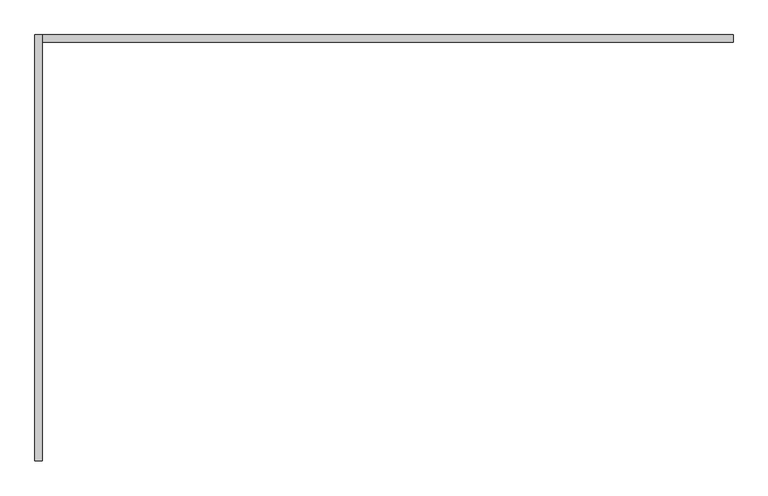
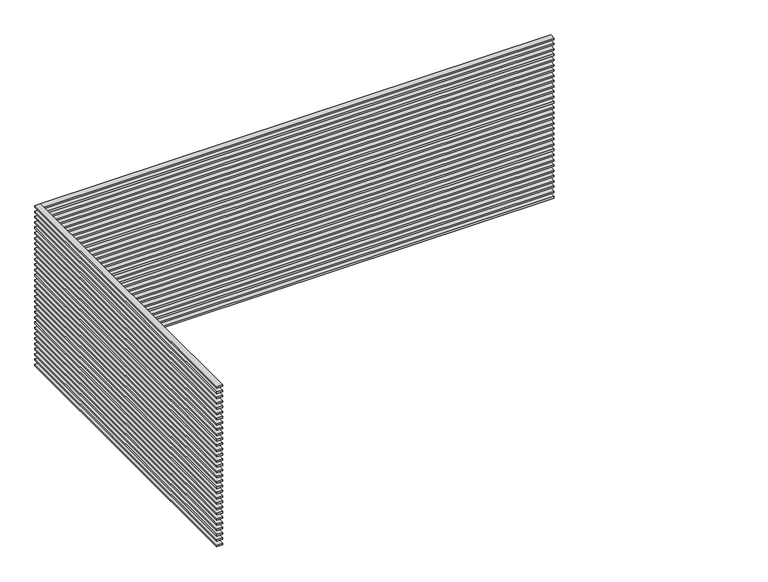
"""IFC4 building model written with IfcOpenShell, lengths in millimetres: proxy geometry, 水平ルーバー（Ｌ型） : h30d100@100."""

from ifc_helpers import new_model, si_unit, frame, origin, place, context, project, spatial, polyline, outline, extrude, source, transform, mapped, element, save


def generic_models_b61f9f31(model_context):
    return source(origin(), model_context, "Body", "SweptSolid", [
        extrude(outline(polyline([(-200.0, -5650.0), (-300.0, -5650.0), (-300.0, 0.0), (-200.0, 0.0), (-200.0, -5650.0)])), frame((0.0, 0.0, 2985.0), z_axis=(0.0, 0.0, 1.0), x_axis=(1.0, 0.0, 0.0)), (0.0, 0.0, 1.0), 30.0),
        extrude(outline(polyline([(-200.0, -5650.0), (-300.0, -5650.0), (-300.0, 0.0), (-200.0, 0.0), (-200.0, -5650.0)])), frame((0.0, 0.0, 2885.0), z_axis=(0.0, 0.0, 1.0), x_axis=(1.0, 0.0, 0.0)), (0.0, 0.0, 1.0), 30.0),
        extrude(outline(polyline([(-200.0, -5650.0), (-300.0, -5650.0), (-300.0, 0.0), (-200.0, 0.0), (-200.0, -5650.0)])), frame((0.0, 0.0, 2785.0), z_axis=(0.0, 0.0, 1.0), x_axis=(1.0, 0.0, 0.0)), (0.0, 0.0, 1.0), 30.0),
        extrude(outline(polyline([(-200.0, -5650.0), (-300.0, -5650.0), (-300.0, 0.0), (-200.0, 0.0), (-200.0, -5650.0)])), frame((0.0, 0.0, 2685.0), z_axis=(0.0, 0.0, 1.0), x_axis=(1.0, 0.0, 0.0)), (0.0, 0.0, 1.0), 30.0),
        extrude(outline(polyline([(-200.0, -5650.0), (-300.0, -5650.0), (-300.0, 0.0), (-200.0, 0.0), (-200.0, -5650.0)])), frame((0.0, 0.0, 2585.0), z_axis=(0.0, 0.0, 1.0), x_axis=(1.0, 0.0, 0.0)), (0.0, 0.0, 1.0), 30.0),
        extrude(outline(polyline([(-200.0, -5650.0), (-300.0, -5650.0), (-300.0, 0.0), (-200.0, 0.0), (-200.0, -5650.0)])), frame((0.0, 0.0, 2485.0), z_axis=(0.0, 0.0, 1.0), x_axis=(1.0, 0.0, 0.0)), (0.0, 0.0, 1.0), 30.0),
        extrude(outline(polyline([(-200.0, -5650.0), (-300.0, -5650.0), (-300.0, 0.0), (-200.0, 0.0), (-200.0, -5650.0)])), frame((0.0, 0.0, 2385.0), z_axis=(0.0, 0.0, 1.0), x_axis=(1.0, 0.0, 0.0)), (0.0, 0.0, 1.0), 30.0),
        extrude(outline(polyline([(-200.0, -5650.0), (-300.0, -5650.0), (-300.0, 0.0), (-200.0, 0.0), (-200.0, -5650.0)])), frame((0.0, 0.0, 2285.0), z_axis=(0.0, 0.0, 1.0), x_axis=(1.0, 0.0, 0.0)), (0.0, 0.0, 1.0), 30.0),
        extrude(outline(polyline([(-200.0, -5650.0), (-300.0, -5650.0), (-300.0, 0.0), (-200.0, 0.0), (-200.0, -5650.0)])), frame((0.0, 0.0, 2185.0), z_axis=(0.0, 0.0, 1.0), x_axis=(1.0, 0.0, 0.0)), (0.0, 0.0, 1.0), 30.0),
        extrude(outline(polyline([(-200.0, -5650.0), (-300.0, -5650.0), (-300.0, 0.0), (-200.0, 0.0), (-200.0, -5650.0)])), frame((0.0, 0.0, 2085.0), z_axis=(0.0, 0.0, 1.0), x_axis=(1.0, 0.0, 0.0)), (0.0, 0.0, 1.0), 30.0),
        extrude(outline(polyline([(-200.0, -5650.0), (-300.0, -5650.0), (-300.0, 0.0), (-200.0, 0.0), (-200.0, -5650.0)])), frame((0.0, 0.0, 1985.0), z_axis=(0.0, 0.0, 1.0), x_axis=(1.0, 0.0, 0.0)), (0.0, 0.0, 1.0), 30.0),
        extrude(outline(polyline([(-200.0, -5650.0), (-300.0, -5650.0), (-300.0, 0.0), (-200.0, 0.0), (-200.0, -5650.0)])), frame((0.0, 0.0, 1885.0), z_axis=(0.0, 0.0, 1.0), x_axis=(1.0, 0.0, 0.0)), (0.0, 0.0, 1.0), 30.0),
        extrude(outline(polyline([(-200.0, -5650.0), (-300.0, -5650.0), (-300.0, 0.0), (-200.0, 0.0), (-200.0, -5650.0)])), frame((0.0, 0.0, 1785.0), z_axis=(0.0, 0.0, 1.0), x_axis=(1.0, 0.0, 0.0)), (0.0, 0.0, 1.0), 30.0),
        extrude(outline(polyline([(-200.0, -5650.0), (-300.0, -5650.0), (-300.0, 0.0), (-200.0, 0.0), (-200.0, -5650.0)])), frame((0.0, 0.0, 1685.0), z_axis=(0.0, 0.0, 1.0), x_axis=(1.0, 0.0, 0.0)), (0.0, 0.0, 1.0), 30.0),
        extrude(outline(polyline([(-200.0, -5650.0), (-300.0, -5650.0), (-300.0, 0.0), (-200.0, 0.0), (-200.0, -5650.0)])), frame((0.0, 0.0, 1585.0), z_axis=(0.0, 0.0, 1.0), x_axis=(1.0, 0.0, 0.0)), (0.0, 0.0, 1.0), 30.0),
        extrude(outline(polyline([(-200.0, -5650.0), (-300.0, -5650.0), (-300.0, 0.0), (-200.0, 0.0), (-200.0, -5650.0)])), frame((0.0, 0.0, 1485.0), z_axis=(0.0, 0.0, 1.0), x_axis=(1.0, 0.0, 0.0)), (0.0, 0.0, 1.0), 30.0),
        extrude(outline(polyline([(-200.0, -5650.0), (-300.0, -5650.0), (-300.0, 0.0), (-200.0, 0.0), (-200.0, -5650.0)])), frame((0.0, 0.0, 1385.0), z_axis=(0.0, 0.0, 1.0), x_axis=(1.0, 0.0, 0.0)), (0.0, 0.0, 1.0), 30.0),
        extrude(outline(polyline([(-200.0, -5650.0), (-300.0, -5650.0), (-300.0, 0.0), (-200.0, 0.0), (-200.0, -5650.0)])), frame((0.0, 0.0, 1285.0), z_axis=(0.0, 0.0, 1.0), x_axis=(1.0, 0.0, 0.0)), (0.0, 0.0, 1.0), 30.0),
        extrude(outline(polyline([(-200.0, -5650.0), (-300.0, -5650.0), (-300.0, 0.0), (-200.0, 0.0), (-200.0, -5650.0)])), frame((0.0, 0.0, 1185.0), z_axis=(0.0, 0.0, 1.0), x_axis=(1.0, 0.0, 0.0)), (0.0, 0.0, 1.0), 30.0),
        extrude(outline(polyline([(-200.0, -5650.0), (-300.0, -5650.0), (-300.0, 0.0), (-200.0, 0.0), (-200.0, -5650.0)])), frame((0.0, 0.0, 1085.0), z_axis=(0.0, 0.0, 1.0), x_axis=(1.0, 0.0, 0.0)), (0.0, 0.0, 1.0), 30.0),
        extrude(outline(polyline([(-200.0, -5650.0), (-300.0, -5650.0), (-300.0, 0.0), (-200.0, 0.0), (-200.0, -5650.0)])), frame((0.0, 0.0, 985.0), z_axis=(0.0, 0.0, 1.0), x_axis=(1.0, 0.0, 0.0)), (0.0, 0.0, 1.0), 30.0),
        extrude(outline(polyline([(-200.0, -5650.0), (-300.0, -5650.0), (-300.0, 0.0), (-200.0, 0.0), (-200.0, -5650.0)])), frame((0.0, 0.0, 885.0), z_axis=(0.0, 0.0, 1.0), x_axis=(1.0, 0.0, 0.0)), (0.0, 0.0, 1.0), 30.0),
        extrude(outline(polyline([(-200.0, -5650.0), (-300.0, -5650.0), (-300.0, 0.0), (-200.0, 0.0), (-200.0, -5650.0)])), frame((0.0, 0.0, 785.0), z_axis=(0.0, 0.0, 1.0), x_axis=(1.0, 0.0, 0.0)), (0.0, 0.0, 1.0), 30.0),
        extrude(outline(polyline([(-200.0, -5650.0), (-300.0, -5650.0), (-300.0, 0.0), (-200.0, 0.0), (-200.0, -5650.0)])), frame((0.0, 0.0, 685.0), z_axis=(0.0, 0.0, 1.0), x_axis=(1.0, 0.0, 0.0)), (0.0, 0.0, 1.0), 30.0),
        extrude(outline(polyline([(-200.0, -5650.0), (-300.0, -5650.0), (-300.0, 0.0), (-200.0, 0.0), (-200.0, -5650.0)])), frame((0.0, 0.0, 585.0), z_axis=(0.0, 0.0, 1.0), x_axis=(1.0, 0.0, 0.0)), (0.0, 0.0, 1.0), 30.0),
        extrude(outline(polyline([(-200.0, -5650.0), (-300.0, -5650.0), (-300.0, 0.0), (-200.0, 0.0), (-200.0, -5650.0)])), frame((0.0, 0.0, 485.0), z_axis=(0.0, 0.0, 1.0), x_axis=(1.0, 0.0, 0.0)), (0.0, 0.0, 1.0), 30.0),
        extrude(outline(polyline([(-200.0, -5650.0), (-300.0, -5650.0), (-300.0, 0.0), (-200.0, 0.0), (-200.0, -5650.0)])), frame((0.0, 0.0, 385.0), z_axis=(0.0, 0.0, 1.0), x_axis=(1.0, 0.0, 0.0)), (0.0, 0.0, 1.0), 30.0),
        extrude(outline(polyline([(-200.0, -5650.0), (-300.0, -5650.0), (-300.0, 0.0), (-200.0, 0.0), (-200.0, -5650.0)])), frame((0.0, 0.0, 285.0), z_axis=(0.0, 0.0, 1.0), x_axis=(1.0, 0.0, 0.0)), (0.0, 0.0, 1.0), 30.0),
        extrude(outline(polyline([(-200.0, -5650.0), (-300.0, -5650.0), (-300.0, 0.0), (-200.0, 0.0), (-200.0, -5650.0)])), frame((0.0, 0.0, 185.0), z_axis=(0.0, 0.0, 1.0), x_axis=(1.0, 0.0, 0.0)), (0.0, 0.0, 1.0), 30.0),
        extrude(outline(polyline([(-200.0, -5650.0), (-300.0, -5650.0), (-300.0, 0.0), (-200.0, 0.0), (-200.0, -5650.0)])), frame((0.0, 0.0, 85.0), z_axis=(0.0, 0.0, 1.0), x_axis=(1.0, 0.0, 0.0)), (0.0, 0.0, 1.0), 30.0),
        extrude(outline(polyline([(-200.0, -5650.0), (-300.0, -5650.0), (-300.0, 0.0), (-200.0, 0.0), (-200.0, -5650.0)])), frame((0.0, 0.0, -15.0), z_axis=(0.0, 0.0, 1.0), x_axis=(1.0, 0.0, 0.0)), (0.0, 0.0, 1.0), 30.0),
        extrude(outline(polyline([(-200.0, -100.0), (-200.0, 0.0), (8950.0, 0.0), (8950.0, -100.0), (-200.0, -100.0)])), frame((0.0, 0.0, 2985.0), z_axis=(0.0, 0.0, 1.0), x_axis=(1.0, 0.0, 0.0)), (0.0, 0.0, 1.0), 30.0),
        extrude(outline(polyline([(-200.0, -100.0), (-200.0, 0.0), (8950.0, 0.0), (8950.0, -100.0), (-200.0, -100.0)])), frame((0.0, 0.0, 2885.0), z_axis=(0.0, 0.0, 1.0), x_axis=(1.0, 0.0, 0.0)), (0.0, 0.0, 1.0), 30.0),
        extrude(outline(polyline([(-200.0, -100.0), (-200.0, 0.0), (8950.0, 0.0), (8950.0, -100.0), (-200.0, -100.0)])), frame((0.0, 0.0, 2785.0), z_axis=(0.0, 0.0, 1.0), x_axis=(1.0, 0.0, 0.0)), (0.0, 0.0, 1.0), 30.0),
        extrude(outline(polyline([(-200.0, -100.0), (-200.0, 0.0), (8950.0, 0.0), (8950.0, -100.0), (-200.0, -100.0)])), frame((0.0, 0.0, 2685.0), z_axis=(0.0, 0.0, 1.0), x_axis=(1.0, 0.0, 0.0)), (0.0, 0.0, 1.0), 30.0),
        extrude(outline(polyline([(-200.0, -100.0), (-200.0, 0.0), (8950.0, 0.0), (8950.0, -100.0), (-200.0, -100.0)])), frame((0.0, 0.0, 2585.0), z_axis=(0.0, 0.0, 1.0), x_axis=(1.0, 0.0, 0.0)), (0.0, 0.0, 1.0), 30.0),
        extrude(outline(polyline([(-200.0, -100.0), (-200.0, 0.0), (8950.0, 0.0), (8950.0, -100.0), (-200.0, -100.0)])), frame((0.0, 0.0, 2485.0), z_axis=(0.0, 0.0, 1.0), x_axis=(1.0, 0.0, 0.0)), (0.0, 0.0, 1.0), 30.0),
        extrude(outline(polyline([(-200.0, -100.0), (-200.0, 0.0), (8950.0, 0.0), (8950.0, -100.0), (-200.0, -100.0)])), frame((0.0, 0.0, 2385.0), z_axis=(0.0, 0.0, 1.0), x_axis=(1.0, 0.0, 0.0)), (0.0, 0.0, 1.0), 30.0),
        extrude(outline(polyline([(-200.0, -100.0), (-200.0, 0.0), (8950.0, 0.0), (8950.0, -100.0), (-200.0, -100.0)])), frame((0.0, 0.0, 2285.0), z_axis=(0.0, 0.0, 1.0), x_axis=(1.0, 0.0, 0.0)), (0.0, 0.0, 1.0), 30.0),
        extrude(outline(polyline([(-200.0, -100.0), (-200.0, 0.0), (8950.0, 0.0), (8950.0, -100.0), (-200.0, -100.0)])), frame((0.0, 0.0, 2185.0), z_axis=(0.0, 0.0, 1.0), x_axis=(1.0, 0.0, 0.0)), (0.0, 0.0, 1.0), 30.0),
        extrude(outline(polyline([(-200.0, -100.0), (-200.0, 0.0), (8950.0, 0.0), (8950.0, -100.0), (-200.0, -100.0)])), frame((0.0, 0.0, 2085.0), z_axis=(0.0, 0.0, 1.0), x_axis=(1.0, 0.0, 0.0)), (0.0, 0.0, 1.0), 30.0),
        extrude(outline(polyline([(-200.0, -100.0), (-200.0, 0.0), (8950.0, 0.0), (8950.0, -100.0), (-200.0, -100.0)])), frame((0.0, 0.0, 1985.0), z_axis=(0.0, 0.0, 1.0), x_axis=(1.0, 0.0, 0.0)), (0.0, 0.0, 1.0), 30.0),
        extrude(outline(polyline([(-200.0, -100.0), (-200.0, 0.0), (8950.0, 0.0), (8950.0, -100.0), (-200.0, -100.0)])), frame((0.0, 0.0, 1885.0), z_axis=(0.0, 0.0, 1.0), x_axis=(1.0, 0.0, 0.0)), (0.0, 0.0, 1.0), 30.0),
        extrude(outline(polyline([(-200.0, -100.0), (-200.0, 0.0), (8950.0, 0.0), (8950.0, -100.0), (-200.0, -100.0)])), frame((0.0, 0.0, 1785.0), z_axis=(0.0, 0.0, 1.0), x_axis=(1.0, 0.0, 0.0)), (0.0, 0.0, 1.0), 30.0),
        extrude(outline(polyline([(-200.0, -100.0), (-200.0, 0.0), (8950.0, 0.0), (8950.0, -100.0), (-200.0, -100.0)])), frame((0.0, 0.0, 1685.0), z_axis=(0.0, 0.0, 1.0), x_axis=(1.0, 0.0, 0.0)), (0.0, 0.0, 1.0), 30.0),
        extrude(outline(polyline([(-200.0, -100.0), (-200.0, 0.0), (8950.0, 0.0), (8950.0, -100.0), (-200.0, -100.0)])), frame((0.0, 0.0, 1585.0), z_axis=(0.0, 0.0, 1.0), x_axis=(1.0, 0.0, 0.0)), (0.0, 0.0, 1.0), 30.0),
        extrude(outline(polyline([(-200.0, -100.0), (-200.0, 0.0), (8950.0, 0.0), (8950.0, -100.0), (-200.0, -100.0)])), frame((0.0, 0.0, 1485.0), z_axis=(0.0, 0.0, 1.0), x_axis=(1.0, 0.0, 0.0)), (0.0, 0.0, 1.0), 30.0),
        extrude(outline(polyline([(-200.0, -100.0), (-200.0, 0.0), (8950.0, 0.0), (8950.0, -100.0), (-200.0, -100.0)])), frame((0.0, 0.0, 1385.0), z_axis=(0.0, 0.0, 1.0), x_axis=(1.0, 0.0, 0.0)), (0.0, 0.0, 1.0), 30.0),
        extrude(outline(polyline([(-200.0, -100.0), (-200.0, 0.0), (8950.0, 0.0), (8950.0, -100.0), (-200.0, -100.0)])), frame((0.0, 0.0, 1285.0), z_axis=(0.0, 0.0, 1.0), x_axis=(1.0, 0.0, 0.0)), (0.0, 0.0, 1.0), 30.0),
        extrude(outline(polyline([(-200.0, -100.0), (-200.0, 0.0), (8950.0, 0.0), (8950.0, -100.0), (-200.0, -100.0)])), frame((0.0, 0.0, 1185.0), z_axis=(0.0, 0.0, 1.0), x_axis=(1.0, 0.0, 0.0)), (0.0, 0.0, 1.0), 30.0),
        extrude(outline(polyline([(-200.0, -100.0), (-200.0, 0.0), (8950.0, 0.0), (8950.0, -100.0), (-200.0, -100.0)])), frame((0.0, 0.0, 1085.0), z_axis=(0.0, 0.0, 1.0), x_axis=(1.0, 0.0, 0.0)), (0.0, 0.0, 1.0), 30.0),
        extrude(outline(polyline([(-200.0, -100.0), (-200.0, 0.0), (8950.0, 0.0), (8950.0, -100.0), (-200.0, -100.0)])), frame((0.0, 0.0, 985.0), z_axis=(0.0, 0.0, 1.0), x_axis=(1.0, 0.0, 0.0)), (0.0, 0.0, 1.0), 30.0),
        extrude(outline(polyline([(-200.0, -100.0), (-200.0, 0.0), (8950.0, 0.0), (8950.0, -100.0), (-200.0, -100.0)])), frame((0.0, 0.0, 885.0), z_axis=(0.0, 0.0, 1.0), x_axis=(1.0, 0.0, 0.0)), (0.0, 0.0, 1.0), 30.0),
        extrude(outline(polyline([(-200.0, -100.0), (-200.0, 0.0), (8950.0, 0.0), (8950.0, -100.0), (-200.0, -100.0)])), frame((0.0, 0.0, 785.0), z_axis=(0.0, 0.0, 1.0), x_axis=(1.0, 0.0, 0.0)), (0.0, 0.0, 1.0), 30.0),
        extrude(outline(polyline([(-200.0, -100.0), (-200.0, 0.0), (8950.0, 0.0), (8950.0, -100.0), (-200.0, -100.0)])), frame((0.0, 0.0, 685.0), z_axis=(0.0, 0.0, 1.0), x_axis=(1.0, 0.0, 0.0)), (0.0, 0.0, 1.0), 30.0),
        extrude(outline(polyline([(-200.0, -100.0), (-200.0, 0.0), (8950.0, 0.0), (8950.0, -100.0), (-200.0, -100.0)])), frame((0.0, 0.0, 585.0), z_axis=(0.0, 0.0, 1.0), x_axis=(1.0, 0.0, 0.0)), (0.0, 0.0, 1.0), 30.0),
        extrude(outline(polyline([(-200.0, -100.0), (-200.0, 0.0), (8950.0, 0.0), (8950.0, -100.0), (-200.0, -100.0)])), frame((0.0, 0.0, 485.0), z_axis=(0.0, 0.0, 1.0), x_axis=(1.0, 0.0, 0.0)), (0.0, 0.0, 1.0), 30.0),
        extrude(outline(polyline([(-200.0, -100.0), (-200.0, 0.0), (8950.0, 0.0), (8950.0, -100.0), (-200.0, -100.0)])), frame((0.0, 0.0, 385.0), z_axis=(0.0, 0.0, 1.0), x_axis=(1.0, 0.0, 0.0)), (0.0, 0.0, 1.0), 30.0),
        extrude(outline(polyline([(-200.0, -100.0), (-200.0, 0.0), (8950.0, 0.0), (8950.0, -100.0), (-200.0, -100.0)])), frame((0.0, 0.0, 285.0), z_axis=(0.0, 0.0, 1.0), x_axis=(1.0, 0.0, 0.0)), (0.0, 0.0, 1.0), 30.0),
        extrude(outline(polyline([(-200.0, -100.0), (-200.0, 0.0), (8950.0, 0.0), (8950.0, -100.0), (-200.0, -100.0)])), frame((0.0, 0.0, 185.0), z_axis=(0.0, 0.0, 1.0), x_axis=(1.0, 0.0, 0.0)), (0.0, 0.0, 1.0), 30.0),
        extrude(outline(polyline([(-200.0, -100.0), (-200.0, 0.0), (8950.0, 0.0), (8950.0, -100.0), (-200.0, -100.0)])), frame((0.0, 0.0, 85.0), z_axis=(0.0, 0.0, 1.0), x_axis=(1.0, 0.0, 0.0)), (0.0, 0.0, 1.0), 30.0),
        extrude(outline(polyline([(-200.0, -100.0), (-200.0, 0.0), (8950.0, 0.0), (8950.0, -100.0), (-200.0, -100.0)])), frame((0.0, 0.0, -15.0), z_axis=(0.0, 0.0, 1.0), x_axis=(1.0, 0.0, 0.0)), (0.0, 0.0, 1.0), 30.0),
    ])


if __name__ == "__main__":
    model = new_model("IFC4")
    model_context = context("Model", 3, world=origin())
    ifc_project = project(units=[si_unit("LENGTHUNIT", "METRE", prefix="MILLI")], contexts=[model_context])
    site = spatial("IfcSite", under=ifc_project)
    building = spatial("IfcBuilding", under=site)
    placement = place(None, origin())
    generic_models_shape = generic_models_b61f9f31(model_context)
    element("IfcBuildingElementProxy", 1, Name="水平ルーバー（Ｌ型） : h30d100@100", ObjectType="水平ルーバー（Ｌ型） : h30d100@100", at=placement, inside=building, context=model_context, shape_type="MappedRepresentation", body=[
        mapped(generic_models_shape, transform((0.0, 0.0, 0.0), x_axis=(1.0, 0.0, 0.0), y_axis=(0.0, 1.0, 0.0), z_axis=(0.0, 0.0, 1.0))),
    ])
    save(model, "model.ifc")
